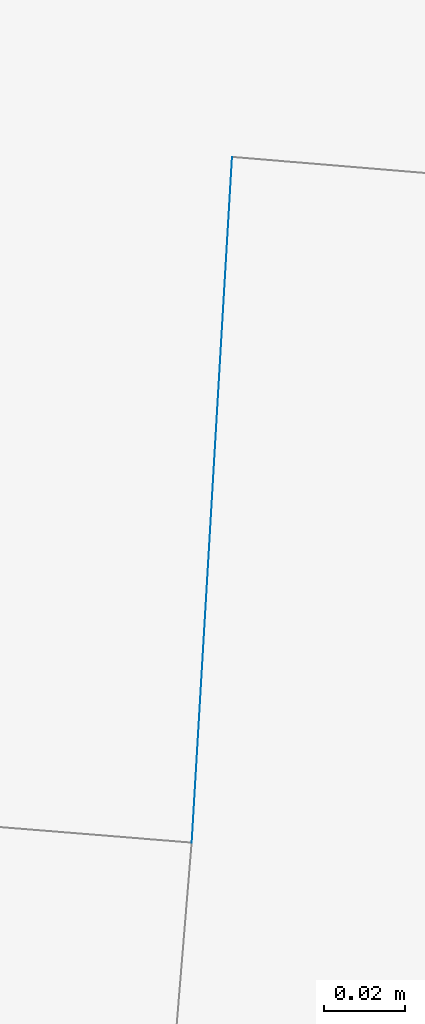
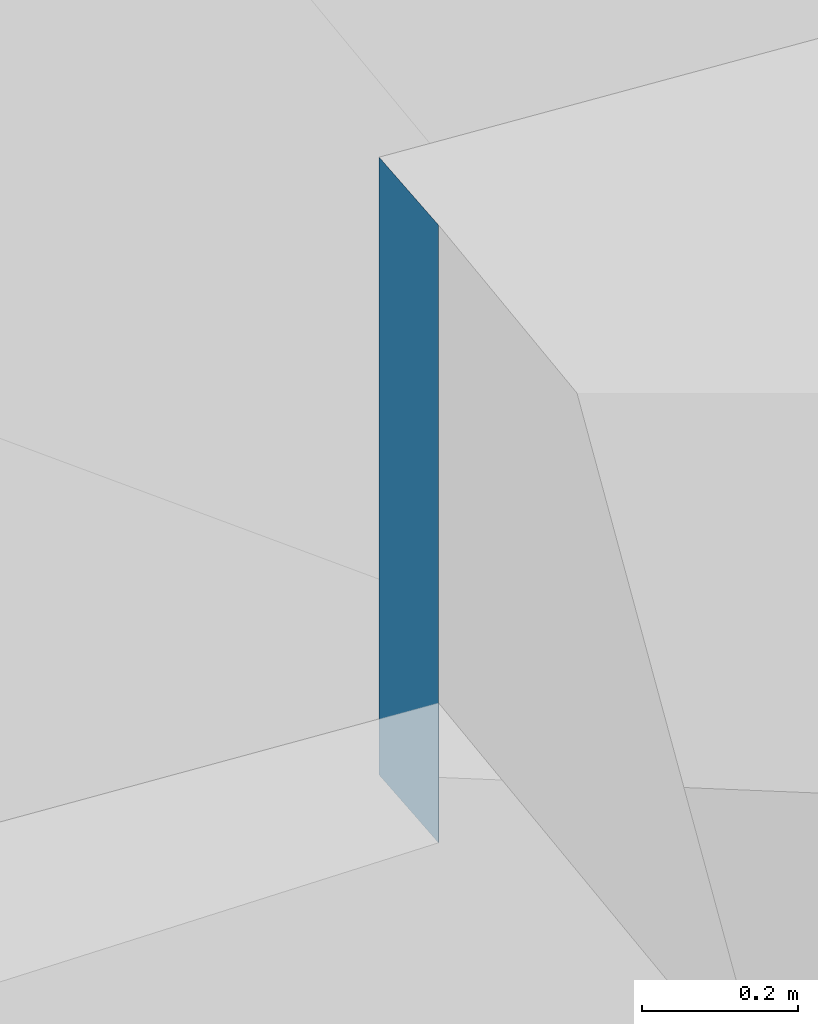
# Not in any storey, part 123 of 136: 1 wall.
"""IFC2X3 building model written with IfcOpenShell, lengths in metres."""

from ifc_helpers import new_model, entity, si_unit, converted_unit, origin, place, context, subcontext, project, spatial, face_set, surface_model, element, save


model = new_model("IFC2X3")

# Units and contexts
model_context = context("Model", 3, precision=1e-05, world=origin())
body_context = subcontext(model_context, "Body", "Model", "MODEL_VIEW")
ifc_project = project(units=[converted_unit("PLANEANGLEUNIT", "DEGREE", entity("IfcRatioMeasure", 0.0174532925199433), si_unit("PLANEANGLEUNIT", "RADIAN"), dimensions=[0, 0, 0, 0, 0, 0, 0]), si_unit("AREAUNIT", "SQUARE_METRE"), si_unit("LENGTHUNIT", "METRE")], contexts=[model_context])

# Site, building
site_placement = place(None, origin())
site = spatial("IfcSite", under=ifc_project, at=site_placement, Name="_site", CompositionType="ELEMENT")
building_placement = place(site_placement, origin())
building = spatial("IfcBuilding", under=site, at=building_placement, Name="_building", CompositionType="ELEMENT")

# Wall
wall_placement = place(building_placement, origin())
element("IfcWall", 1, at=wall_placement, inside=building, Name="Wall", context=body_context, shape_type="SurfaceModel", body=[
    surface_model("IfcFaceBasedSurfaceModel", [(222.68, 64.88, 54.32), (222.69, 65.05, 54.32), (222.69, 65.05, 53.35), (222.68, 64.88, 53.35)], [face_set([[[0, 1, 2, 3]]])]),
])

save(model, "model.ifc")
